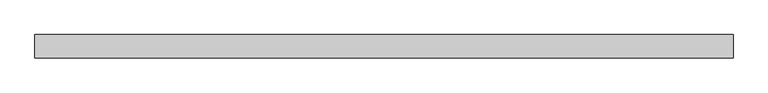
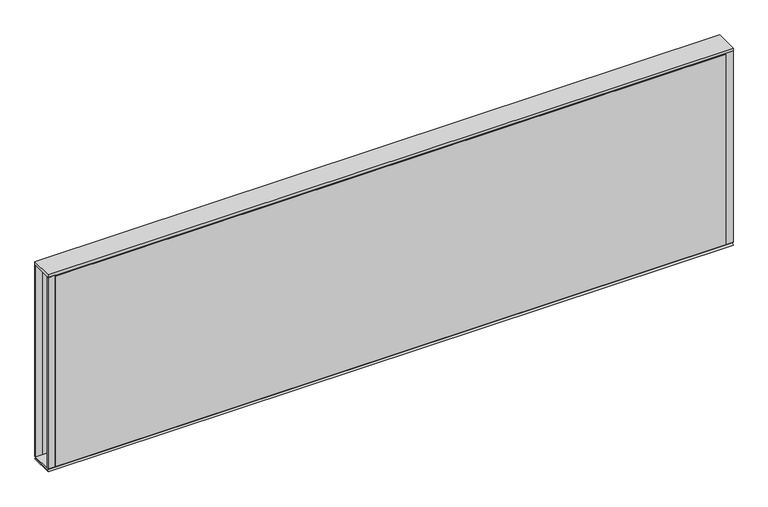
"""IFC4 building model written with IfcOpenShell, lengths in millimetres: furniture geometry, Steelcase - Kick Solutions - Panel - Stacker - Tackable Acoustical : 18H x 60W."""

from ifc_helpers import new_model, si_unit, frame, origin, place, context, project, spatial, polyline, outline, extrude, source, transform, mapped, element, save


def furniture_48fb5270(model_context):
    return source(origin(), model_context, "Body", "SweptSolid", [
        extrude(outline(polyline([(-50.7995075, 1073.2669139), (-0.000494, 1073.2669139), (-3.1752531, 1070.0921549), (-47.6247484, 1070.0921549), (-50.7995075, 1073.2669139)])), frame((0.0, 0.0, 0.0), z_axis=(1.0, 0.0, 0.0), x_axis=(0.0, 1.0, 0.0)), (0.0, 0.0, 1.0), 1524.0),
        extrude(outline(polyline([(0.0, 1073.2669139), (-3.1750015, 1073.2669139), (-3.1750015, 1524.1169018), (0.0, 1521.0357466), (0.0, 1073.2669139)])), frame((15.8749996, 0.0, 0.0), z_axis=(1.0, 0.0, 0.0), x_axis=(0.0, 1.0, 0.0)), (0.0, 0.0, 1.0), 1492.2500008),
        extrude(outline(polyline([(-50.8000015, 1073.2669139), (-50.8000015, 1521.0357466), (-47.625, 1524.1169018), (-47.625, 1073.2669139), (-50.8000015, 1073.2669139)])), frame((15.8749996, 0.0, 0.0), z_axis=(1.0, 0.0, 0.0), x_axis=(0.0, 1.0, 0.0)), (0.0, 0.0, 1.0), 1492.2500008),
        extrude(outline(polyline([(1524.0, -3.1750015), (1508.1250004, -3.1750015), (1508.1250004, 0.0), (1524.0, 0.0), (1524.0, -3.1750015)])), frame((0.0, 0.0, 1073.2669139), z_axis=(0.0, 0.0, 1.0), x_axis=(1.0, 0.0, 0.0)), (0.0, 0.0, 1.0), 450.8499879),
        extrude(outline(polyline([(15.8749996, -50.8000015), (0.0, -50.8000015), (0.0, -47.625), (15.8749996, -47.625), (15.8749996, -50.8000015)])), frame((0.0, 0.0, 1073.2669139), z_axis=(0.0, 0.0, 1.0), x_axis=(1.0, 0.0, 0.0)), (0.0, 0.0, 1.0), 450.8499879),
        extrude(outline(polyline([(1524.0, 0.0), (1524.0, -50.8000015), (0.0, -50.8000015), (0.0, 0.0), (1524.0, 0.0)])), frame((0.0, 0.0, 1524.1169018), z_axis=(0.0, 0.0, 1.0), x_axis=(1.0, 0.0, 0.0)), (0.0, 0.0, 1.0), 6.35),
        extrude(outline(polyline([(15.8749996, -3.1750015), (0.0, -3.1750015), (0.0, 0.0), (15.8749996, 0.0), (15.8749996, -3.1750015)])), frame((0.0, 0.0, 1073.2669139), z_axis=(0.0, 0.0, 1.0), x_axis=(1.0, 0.0, 0.0)), (0.0, 0.0, 1.0), 450.8499879),
        extrude(outline(polyline([(1524.0, -50.8000015), (1508.1250004, -50.8000015), (1508.1250004, -47.625), (1524.0, -47.625), (1524.0, -50.8000015)])), frame((0.0, 0.0, 1073.2669139), z_axis=(0.0, 0.0, 1.0), x_axis=(1.0, 0.0, 0.0)), (0.0, 0.0, 1.0), 450.8499879),
        extrude(outline(polyline([(-50.8000015, 1066.9169018), (-47.6247484, 1070.0921549), (-3.1752531, 1070.0921549), (0.0, 1066.9169018), (-50.8000015, 1066.9169018)])), frame((0.0, 0.0, 0.0), z_axis=(1.0, 0.0, 0.0), x_axis=(0.0, 1.0, 0.0)), (0.0, 0.0, 1.0), 1524.0),
    ])


if __name__ == "__main__":
    model = new_model("IFC4")
    model_context = context("Model", 3, world=origin())
    ifc_project = project(units=[si_unit("LENGTHUNIT", "METRE", prefix="MILLI")], contexts=[model_context])
    site = spatial("IfcSite", under=ifc_project)
    building = spatial("IfcBuilding", under=site)
    placement = place(None, origin())
    furniture_shape = furniture_48fb5270(model_context)
    element("IfcFurniture", 1, ObjectType="Steelcase - Kick Solutions - Panel - Stacker - Tackable Acoustical : 18H x 60W", at=placement, inside=building, context=model_context, shape_type="MappedRepresentation", body=[
        mapped(furniture_shape, transform((0.0, 0.0, 0.0), x_axis=(1.0, 0.0, 0.0), y_axis=(0.0, 1.0, 0.0), z_axis=(0.0, 0.0, 1.0))),
    ])
    save(model, "model.ifc")
